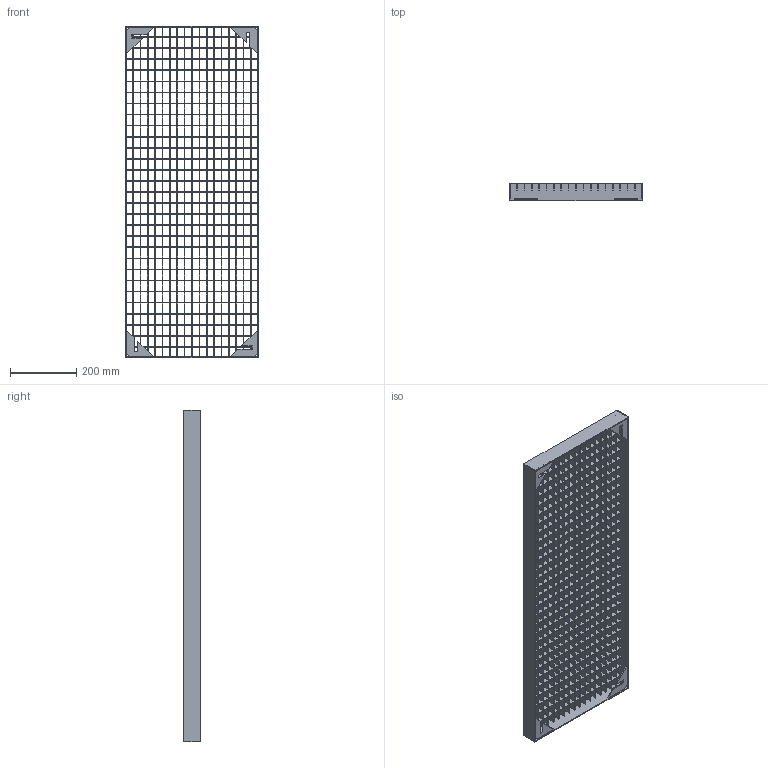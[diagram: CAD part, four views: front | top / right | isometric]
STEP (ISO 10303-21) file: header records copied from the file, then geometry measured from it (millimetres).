
FILE_DESCRIPTION (( 'STEP AP203' ), '1' );
FILE_NAME ('11012410G_Trinrist_400x1000_20x30_20x2_mm_.STEP', '2014-12-19T10:28:25', ( '' ), ( '' ), 'SwSTEP 2.0', 'SolidWorks 2013', '' );
FILE_SCHEMA (( 'CONFIG_CONTROL_DESIGN' ));
Length unit declared in the file: millimetre
Products named in the file (6): 11012410G_Trinrist_400x1000_20x30_20x2_mm_; 11012410G_Ribbe_20x2x394_mm_; 11012410G_Tvaerstav_20x2x994_mm_; 11012410G_Kantstaal_50x3x394_mm_; 11012410G_Kantstaal_50x3x1000_mm_; 11012410G_Hjoernebeslag_80x80x3_mm_
Assembly tree (54 placements, depth 2):
  11012410G_Trinrist_400x1000_20x30_20x2_mm_
    11012410G_Ribbe_20x2x394_mm_  x29
    11012410G_Tvaerstav_20x2x994_mm_  x17
    11012410G_Kantstaal_50x3x394_mm_  x2
    11012410G_Kantstaal_50x3x1000_mm_  x2
    11012410G_Hjoernebeslag_80x80x3_mm_  x4
Bounding box: 400 x 50 x 1000 mm (x, y, z)
Volume: 1545744.9 mm3; surface area: 1573454.2 mm2
Topology: 54 solids, 54 shells, 4284 faces, 12528 edges, 8352 vertices
Faces by surface type: plane 4284
Entity records: 9168 total; most frequent: CARTESIAN_POINT 1315, ORIENTED_EDGE 1248, DIRECTION 1174, LINE 624, EDGE_CURVE 624, VECTOR 624, VERTEX_POINT 416, AXIS2_PLACEMENT_3D 275
